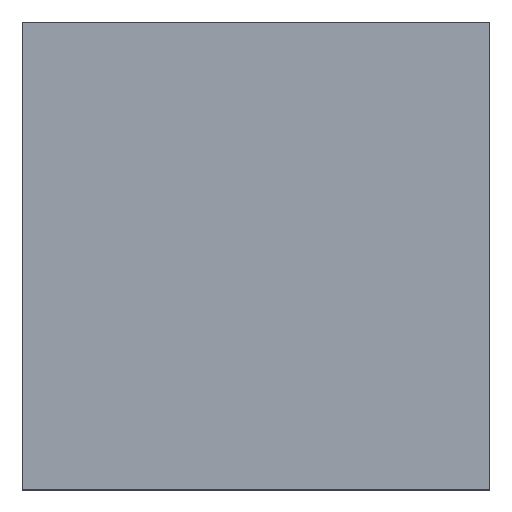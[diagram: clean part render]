
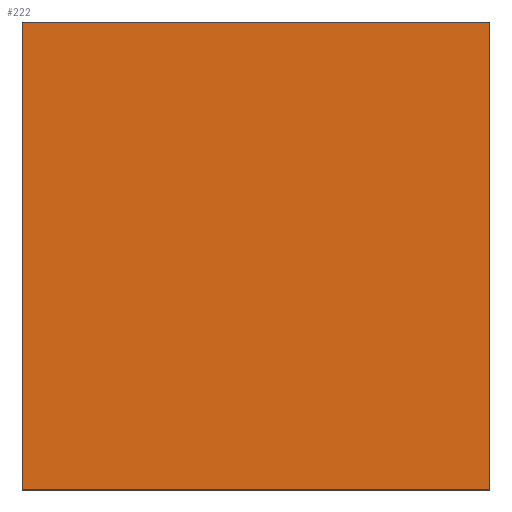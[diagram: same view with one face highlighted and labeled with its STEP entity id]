
A CAD part, top view. The second image highlights one B-rep face of the part: STEP entity #222.
In plain terms, the highlighted planar face has unit normal (0, 0, 1).
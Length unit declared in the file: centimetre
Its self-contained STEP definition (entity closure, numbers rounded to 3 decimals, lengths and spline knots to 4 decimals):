
#12 = CARTESIAN_POINT ( 'NONE',  ( 0., 0., 1000. ) ) ;
#75 = CARTESIAN_POINT ( 'NONE',  ( 1000., 1000., 1000. ) ) ;
#84 = ORIENTED_EDGE ( 'NONE', *, *, #348, .T. ) ;
#95 = LINE ( 'NONE', #344, #390 ) ;
#111 = LINE ( 'NONE', #75, #372 ) ;
#127 = DIRECTION ( 'NONE',  ( 0., 0., 1. ) ) ;
#128 = VERTEX_POINT ( 'NONE', #192 ) ;
#130 = EDGE_LOOP ( 'NONE', ( #290, #454, #363, #84 ) ) ;
#138 = LINE ( 'NONE', #468, #265 ) ;
#175 = DIRECTION ( 'NONE',  ( 0., -1., 0. ) ) ;
#192 = CARTESIAN_POINT ( 'NONE',  ( 0., 1000., 1000. ) ) ;
#196 = VECTOR ( 'NONE', #342, 100. ) ;
#205 = FACE_OUTER_BOUND ( 'NONE', #130, .T. ) ;
#218 = CARTESIAN_POINT ( 'NONE',  ( 0., 0., 1000. ) ) ;
#222 = ADVANCED_FACE ( 'NONE', ( #205 ), #359, .T. ) ;
#233 = DIRECTION ( 'NONE',  ( 0., 1., 0. ) ) ;
#249 = VERTEX_POINT ( 'NONE', #218 ) ;
#250 = CARTESIAN_POINT ( 'NONE',  ( 1000., 0., 1000. ) ) ;
#255 = DIRECTION ( 'NONE',  ( 1., 0., 0. ) ) ;
#265 = VECTOR ( 'NONE', #255, 100. ) ;
#284 = VERTEX_POINT ( 'NONE', #250 ) ;
#290 = ORIENTED_EDGE ( 'NONE', *, *, #380, .T. ) ;
#291 = EDGE_CURVE ( 'NONE', #249, #284, #138, .T. ) ;
#297 = CARTESIAN_POINT ( 'NONE',  ( 1000., 1000., 1000. ) ) ;
#342 = DIRECTION ( 'NONE',  ( -1., 0., 0. ) ) ;
#344 = CARTESIAN_POINT ( 'NONE',  ( 0., 1000., 1000. ) ) ;
#348 = EDGE_CURVE ( 'NONE', #462, #128, #479, .T. ) ;
#359 = PLANE ( 'NONE',  #428 ) ;
#363 = ORIENTED_EDGE ( 'NONE', *, *, #445, .T. ) ;
#372 = VECTOR ( 'NONE', #233, 100. ) ;
#380 = EDGE_CURVE ( 'NONE', #128, #249, #95, .T. ) ;
#390 = VECTOR ( 'NONE', #175, 100. ) ;
#428 = AXIS2_PLACEMENT_3D ( 'NONE', #12, #127, #460 ) ;
#445 = EDGE_CURVE ( 'NONE', #284, #462, #111, .T. ) ;
#454 = ORIENTED_EDGE ( 'NONE', *, *, #291, .T. ) ;
#460 = DIRECTION ( 'NONE',  ( 1., 0., 0. ) ) ;
#462 = VERTEX_POINT ( 'NONE', #297 ) ;
#465 = CARTESIAN_POINT ( 'NONE',  ( 0., 1000., 1000. ) ) ;
#468 = CARTESIAN_POINT ( 'NONE',  ( 0., 0., 1000. ) ) ;
#479 = LINE ( 'NONE', #465, #196 ) ;
